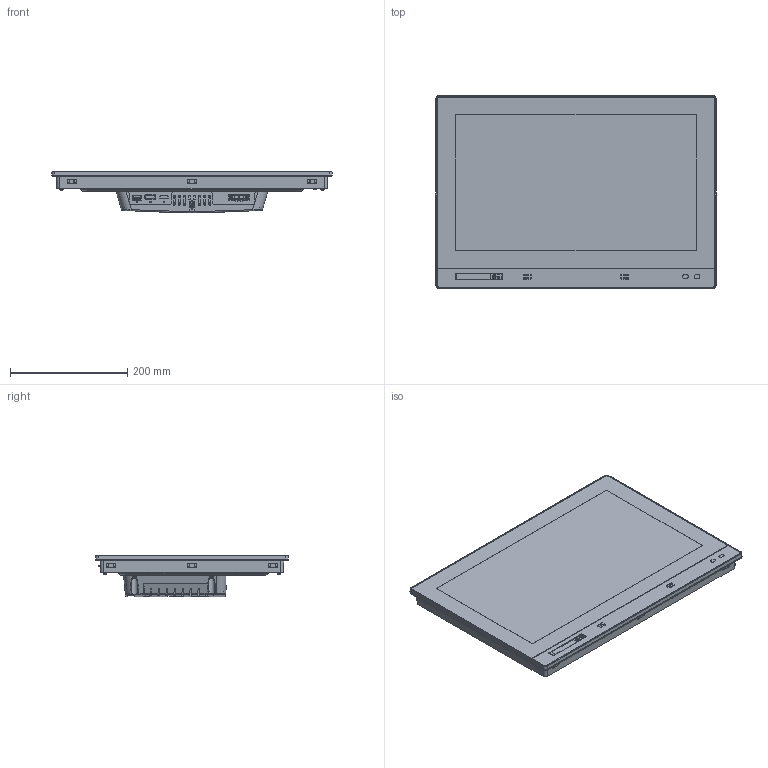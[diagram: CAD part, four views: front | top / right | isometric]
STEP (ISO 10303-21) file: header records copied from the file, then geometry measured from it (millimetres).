
FILE_DESCRIPTION((''),'2;1');
FILE_NAME('3D-MDPSC1900WD','2024-07-26T11:30:25',('Youngmin'),(''),'CREO PARAMETRIC BY PTC INC, 2022284','CREO PARAMETRIC BY PTC INC, 2022284','');
FILE_SCHEMA(('CONFIG_CONTROL_DESIGN'));
Products named in the file (1): 3D-MDPSC1900WD
Bounding box: 477.4 x 328.4 x 71.45 mm (x, y, z)
Volume: 6212055.8 mm3; surface area: 464417.5 mm2
Topology: 1 solids, 24 shells, 3189 faces, 8369 edges, 5448 vertices
Faces by surface type: plane 1941, cylinder 875, bspline 232, sphere 60, cone 50, extrusion 21, torus 10
Entity records: 114783 total; most frequent: CARTESIAN_POINT 38527, ORIENTED_EDGE 16738, DIRECTION 14173, EDGE_CURVE 8369, VECTOR 5493, LINE 5472, VERTEX_POINT 5448, AXIS2_PLACEMENT_3D 4340
